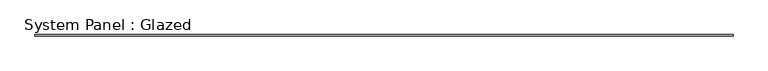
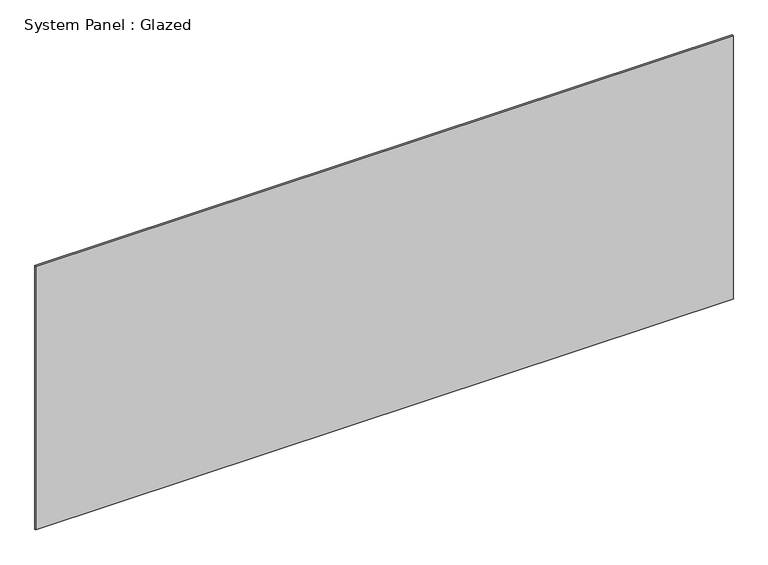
"""IFC4 building model written with IfcOpenShell, lengths in millimetres: plate geometry, System Panel : Glazed."""

from ifc_helpers import new_model, si_unit, origin, origin_with_axes, place, context, project, spatial, polyline, outline, extrude, source, transform, mapped, element, save


def system_panel_glazed_f35a9ebe(model_context):
    return source(origin(), model_context, "Body", "SweptSolid", [
        extrude(outline(polyline([(7620.0, -44.45), (-7620.0, -44.45), (-7620.0, -19.05), (7620.0, -19.05), (7620.0, -44.45)])), origin_with_axes(), (0.0, 0.0, 1.0), 6096.0),
    ])


if __name__ == "__main__":
    model = new_model("IFC4")
    model_context = context("Model", 3, world=origin())
    ifc_project = project(units=[si_unit("LENGTHUNIT", "METRE", prefix="MILLI")], contexts=[model_context])
    site = spatial("IfcSite", under=ifc_project)
    building = spatial("IfcBuilding", under=site)
    placement = place(None, origin())
    system_panel_glazed_shape = system_panel_glazed_f35a9ebe(model_context)
    element("IfcPlate", 1, ObjectType="System Panel : Glazed", at=placement, inside=building, context=model_context, shape_type="MappedRepresentation", body=[
        mapped(system_panel_glazed_shape, transform((0.0, 0.0, 0.0), x_axis=(1.0, 0.0, 0.0), y_axis=(0.0, 1.0, 0.0), z_axis=(0.0, 0.0, 1.0))),
    ])
    save(model, "model.ifc")
